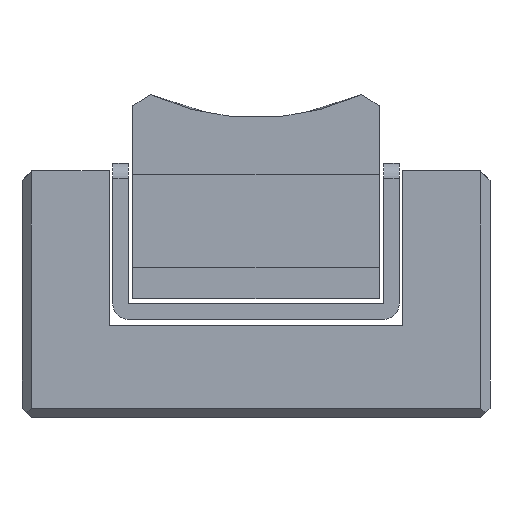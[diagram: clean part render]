
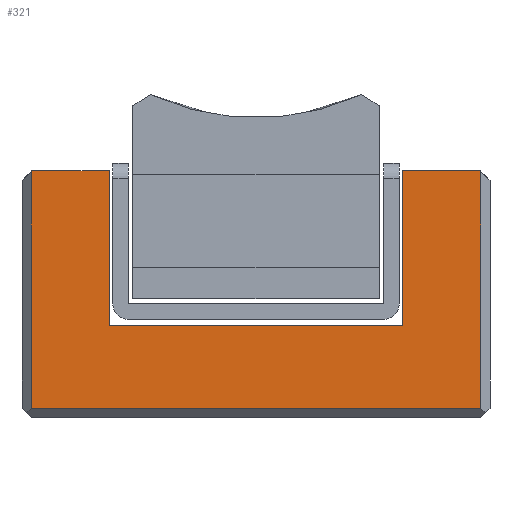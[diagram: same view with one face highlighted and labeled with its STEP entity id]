
A CAD part, front view. The second image highlights one B-rep face of the part: STEP entity #321.
In plain terms, the highlighted planar face has unit normal (0, -1, 0).
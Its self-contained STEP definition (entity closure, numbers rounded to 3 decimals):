
#321=ADVANCED_FACE('',(#1142),#729,.T.);
#729=PLANE('',#8745);
#1142=FACE_OUTER_BOUND('',#1568,.T.);
#1568=EDGE_LOOP('',(#2229,#2230,#2231,#2232,#2233,#2234,#2235,#2236));
#2229=ORIENTED_EDGE('',*,*,#5312,.T.);
#2230=ORIENTED_EDGE('',*,*,#5309,.T.);
#2231=ORIENTED_EDGE('',*,*,#5313,.T.);
#2232=ORIENTED_EDGE('',*,*,#5314,.T.);
#2233=ORIENTED_EDGE('',*,*,#5315,.T.);
#2234=ORIENTED_EDGE('',*,*,#5316,.T.);
#2235=ORIENTED_EDGE('',*,*,#5317,.T.);
#2236=ORIENTED_EDGE('',*,*,#5318,.T.);
#4480=VERTEX_POINT('',#11971);
#4481=VERTEX_POINT('',#11973);
#4483=VERTEX_POINT('',#11979);
#4484=VERTEX_POINT('',#11981);
#4485=VERTEX_POINT('',#11983);
#4486=VERTEX_POINT('',#11985);
#4487=VERTEX_POINT('',#11987);
#4488=VERTEX_POINT('',#11989);
#5309=EDGE_CURVE('',#4481,#4480,#6471,.T.);
#5312=EDGE_CURVE('',#4483,#4481,#6474,.T.);
#5313=EDGE_CURVE('',#4480,#4484,#6475,.T.);
#5314=EDGE_CURVE('',#4484,#4485,#6476,.T.);
#5315=EDGE_CURVE('',#4485,#4486,#6477,.T.);
#5316=EDGE_CURVE('',#4486,#4487,#6478,.T.);
#5317=EDGE_CURVE('',#4487,#4488,#6479,.T.);
#5318=EDGE_CURVE('',#4488,#4483,#6480,.T.);
#6471=LINE('',#11972,#7615);
#6474=LINE('',#11978,#7618);
#6475=LINE('',#11980,#7619);
#6476=LINE('',#11982,#7620);
#6477=LINE('',#11984,#7621);
#6478=LINE('',#11986,#7622);
#6479=LINE('',#11988,#7623);
#6480=LINE('',#11990,#7624);
#7615=VECTOR('',#9343,1.);
#7618=VECTOR('',#9348,1.);
#7619=VECTOR('',#9349,1.);
#7620=VECTOR('',#9350,1.);
#7621=VECTOR('',#9351,1.);
#7622=VECTOR('',#9352,1.);
#7623=VECTOR('',#9353,1.);
#7624=VECTOR('',#9354,1.);
#8745=AXIS2_PLACEMENT_3D('',#11991,#9355,#9356);
#9343=DIRECTION('',(0.,0.,-1.));
#9348=DIRECTION('',(-1.,0.,0.));
#9349=DIRECTION('',(-1.,0.,0.));
#9350=DIRECTION('',(0.,0.,1.));
#9351=DIRECTION('',(-1.,0.,0.));
#9352=DIRECTION('',(0.,0.,-1.));
#9353=DIRECTION('',(1.,0.,0.));
#9354=DIRECTION('',(0.,0.,1.));
#9355=DIRECTION('',(0.,-1.,0.));
#9356=DIRECTION('',(-1.,0.,0.));
#11971=CARTESIAN_POINT('',(2.35,-10.628,12.098));
#11972=CARTESIAN_POINT('',(2.35,-10.628,12.454));
#11973=CARTESIAN_POINT('',(2.35,-10.628,14.578));
#11978=CARTESIAN_POINT('',(3.6,-10.628,14.578));
#11979=CARTESIAN_POINT('',(3.6,-10.628,14.578));
#11980=CARTESIAN_POINT('',(2.35,-10.628,12.098));
#11981=CARTESIAN_POINT('',(-2.35,-10.628,12.098));
#11982=CARTESIAN_POINT('',(-2.35,-10.628,14.201));
#11983=CARTESIAN_POINT('',(-2.35,-10.628,14.578));
#11984=CARTESIAN_POINT('',(-2.35,-10.628,14.578));
#11985=CARTESIAN_POINT('',(-3.6,-10.628,14.578));
#11986=CARTESIAN_POINT('',(-3.6,-10.628,14.578));
#11987=CARTESIAN_POINT('',(-3.6,-10.628,10.778));
#11988=CARTESIAN_POINT('',(-3.6,-10.628,10.778));
#11989=CARTESIAN_POINT('',(3.6,-10.628,10.778));
#11990=CARTESIAN_POINT('',(3.6,-10.628,10.778));
#11991=CARTESIAN_POINT('',(0.,-10.628,10.628));
